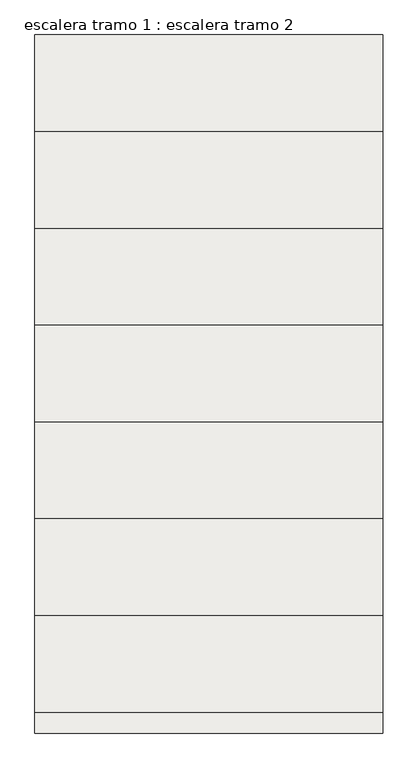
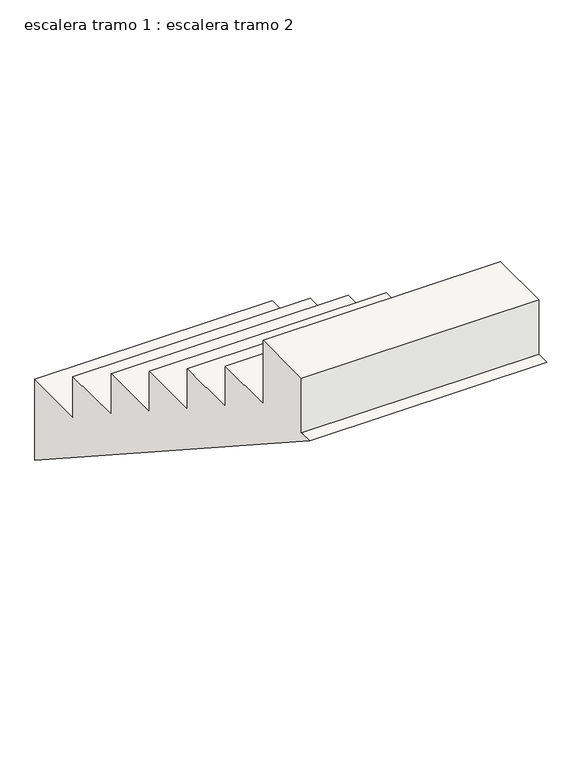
"""IFC4 building model written with IfcOpenShell, lengths in millimetres: slab geometry, escalera tramo 1 : escalera tramo 2."""

from ifc_helpers import new_model, si_unit, frame, origin, place, context, project, spatial, polyline, outline, extrude, source, transform, mapped, element, save


def escalera_tramo_1_escalera_tramo_2_78cb8bb0(model_context):
    return source(origin(), model_context, "Body", "SweptSolid", [
        extrude(outline(polyline([(7644.1272561, 5565.0014808), (7644.1272561, 5195.0014808), (5588.4098097, 6530.0), (5649.1272561, 6530.0), (5649.1272561, 6780.0), (5934.1272561, 6780.0), (5934.1272561, 6490.0014808), (6219.1272561, 6490.0014808), (6219.1272561, 6305.0014808), (6504.1272561, 6305.0014808), (6504.1272561, 6120.0014808), (6789.1272561, 6120.0014808), (6789.1272561, 5935.0014808), (7074.1272561, 5935.0014808), (7074.1272561, 5750.0014808), (7359.1272561, 5750.0014808), (7359.1272561, 5565.0014808), (7644.1272561, 5565.0014808)])), frame((9215.0, 0.0, 0.0), z_axis=(1.0, 0.0, 0.0), x_axis=(0.0, 1.0, 0.0)), (0.0, 0.0, 1.0), 1025.0),
    ])


if __name__ == "__main__":
    model = new_model("IFC4")
    model_context = context("Model", 3, world=origin())
    ifc_project = project(units=[si_unit("LENGTHUNIT", "METRE", prefix="MILLI")], contexts=[model_context])
    site = spatial("IfcSite", under=ifc_project)
    building = spatial("IfcBuilding", under=site)
    placement = place(None, origin())
    escalera_tramo_1_escalera_tramo_2_shape = escalera_tramo_1_escalera_tramo_2_78cb8bb0(model_context)
    element("IfcSlab", 1, ObjectType="escalera tramo 1 : escalera tramo 2", at=placement, inside=building, context=model_context, shape_type="MappedRepresentation", body=[
        mapped(escalera_tramo_1_escalera_tramo_2_shape, transform((0.0, 0.0, 0.0), x_axis=(1.0, 0.0, 0.0), y_axis=(0.0, 1.0, 0.0), z_axis=(0.0, 0.0, 1.0))),
    ])
    save(model, "model.ifc")
